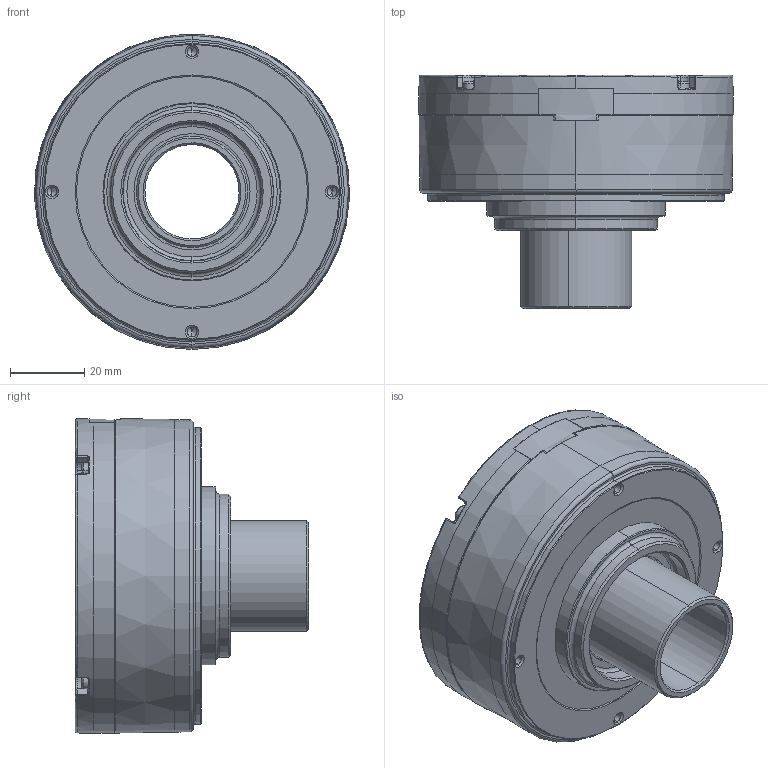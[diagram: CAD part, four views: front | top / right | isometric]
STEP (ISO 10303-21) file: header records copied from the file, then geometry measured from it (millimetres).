
FILE_DESCRIPTION (( 'STEP AP203' ), '1' );
FILE_NAME ('PMBA-100JHWC.STEP', '2021-11-08T06:32:35', ( '' ), ( '' ), 'SwSTEP 2.0', 'SolidWorks 2018', '' );
FILE_SCHEMA (( 'CONFIG_CONTROL_DESIGN' ));
Length unit declared in the file: millimetre
Products named in the file (6): PMBA-100JHWC; 601-1101-00(組立ねじ); XE-2020-3500-xx(回転子軸); XE-2021-0777-01(ブラケット F(加工)); XE-2021-0988-xx(グロメット); XE-2021-0779-02(ブラケット R(加工))
Assembly tree (8 placements, depth 2):
  PMBA-100JHWC
    XE-2021-0777-01(ブラケット F(加工))
    XE-2020-3500-xx(回転子軸)
    XE-2021-0779-02(ブラケット R(加工))
    XE-2021-0988-xx(グロメット)
    601-1101-00(組立ねじ)  x4
Bounding box: 84.93 x 62.9 x 84.88 mm (x, y, z)
Volume: 104210 mm3; surface area: 55255.9 mm2
Topology: 8 solids, 8 shells, 442 faces, 1055 edges, 629 vertices
Faces by surface type: cone 128, plane 125, cylinder 77, bspline 55, torus 53, sphere 4
Entity records: 13688 total; most frequent: CARTESIAN_POINT 4649, DIRECTION 1772, ORIENTED_EDGE 1742, EDGE_CURVE 871, AXIS2_PLACEMENT_3D 752, VERTEX_POINT 527, CIRCLE 420, EDGE_LOOP 412
